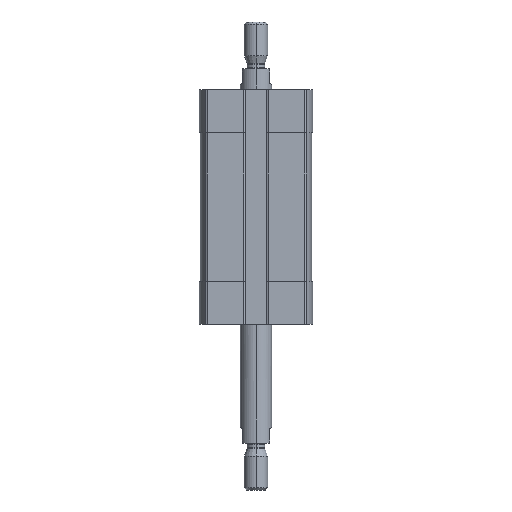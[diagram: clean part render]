
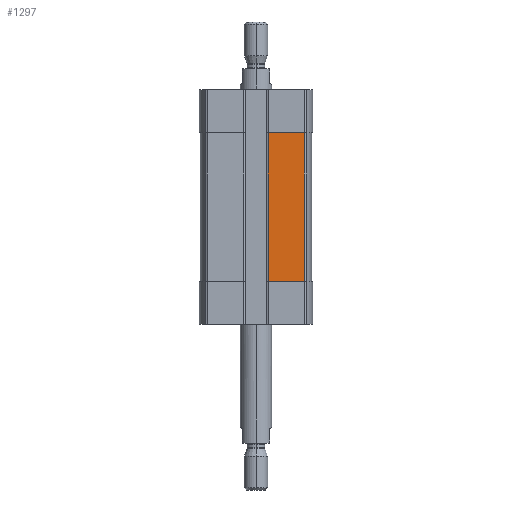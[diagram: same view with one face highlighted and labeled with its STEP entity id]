
A CAD part, left-side view. The second image highlights one B-rep face of the part: STEP entity #1297.
In plain terms, the highlighted planar face has unit normal (-1, 0, 0).
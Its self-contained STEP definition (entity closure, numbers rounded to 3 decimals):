
#526 = EDGE_CURVE ( 'NONE', #7900, #7430, #10394, .T. ) ;
#851 = ORIENTED_EDGE ( 'NONE', *, *, #526, .T. ) ;
#1297 = ADVANCED_FACE ( 'NONE', ( #6784 ), #4997, .T. ) ;
#1346 = CARTESIAN_POINT ( 'NONE',  ( -14.25, -3.1, -11. ) ) ;
#1921 = VECTOR ( 'NONE', #6202, 1000. ) ;
#2373 = CARTESIAN_POINT ( 'NONE',  ( -14.25, -3.1, -49. ) ) ;
#3290 = CARTESIAN_POINT ( 'NONE',  ( -14.25, -3.1, -11. ) ) ;
#3900 = DIRECTION ( 'NONE',  ( 0., -1., 0. ) ) ;
#4034 = CARTESIAN_POINT ( 'NONE',  ( -14.25, -3.1, -49. ) ) ;
#4946 = EDGE_CURVE ( 'NONE', #8738, #7900, #5737, .T. ) ;
#4997 = PLANE ( 'NONE',  #10970 ) ;
#5024 = CARTESIAN_POINT ( 'NONE',  ( -14.25, -12.347, -11. ) ) ;
#5405 = VERTEX_POINT ( 'NONE', #1346 ) ;
#5701 = ORIENTED_EDGE ( 'NONE', *, *, #7961, .F. ) ;
#5737 = LINE ( 'NONE', #10946, #10410 ) ;
#6128 = LINE ( 'NONE', #2373, #9022 ) ;
#6151 = VECTOR ( 'NONE', #7714, 1000. ) ;
#6202 = DIRECTION ( 'NONE',  ( 0., -1., 0. ) ) ;
#6784 = FACE_OUTER_BOUND ( 'NONE', #7700, .T. ) ;
#6870 = ORIENTED_EDGE ( 'NONE', *, *, #11332, .F. ) ;
#7430 = VERTEX_POINT ( 'NONE', #5024 ) ;
#7700 = EDGE_LOOP ( 'NONE', ( #6870, #5701, #10617, #851 ) ) ;
#7714 = DIRECTION ( 'NONE',  ( 0., 0., 1. ) ) ;
#7900 = VERTEX_POINT ( 'NONE', #8758 ) ;
#7961 = EDGE_CURVE ( 'NONE', #8738, #5405, #6128, .T. ) ;
#8402 = DIRECTION ( 'NONE',  ( 0., 0., 1. ) ) ;
#8465 = CARTESIAN_POINT ( 'NONE',  ( -14.25, -3.1, -49. ) ) ;
#8601 = CARTESIAN_POINT ( 'NONE',  ( -14.25, -12.347, -49. ) ) ;
#8738 = VERTEX_POINT ( 'NONE', #4034 ) ;
#8758 = CARTESIAN_POINT ( 'NONE',  ( -14.25, -12.347, -49. ) ) ;
#9022 = VECTOR ( 'NONE', #9715, 1000. ) ;
#9715 = DIRECTION ( 'NONE',  ( 0., 0., 1. ) ) ;
#10369 = DIRECTION ( 'NONE',  ( -1., 0., 0. ) ) ;
#10394 = LINE ( 'NONE', #8601, #6151 ) ;
#10410 = VECTOR ( 'NONE', #3900, 1000. ) ;
#10617 = ORIENTED_EDGE ( 'NONE', *, *, #4946, .T. ) ;
#10946 = CARTESIAN_POINT ( 'NONE',  ( -14.25, -3.1, -49. ) ) ;
#10970 = AXIS2_PLACEMENT_3D ( 'NONE', #8465, #10369, #8402 ) ;
#11332 = EDGE_CURVE ( 'NONE', #5405, #7430, #11527, .T. ) ;
#11527 = LINE ( 'NONE', #3290, #1921 ) ;
